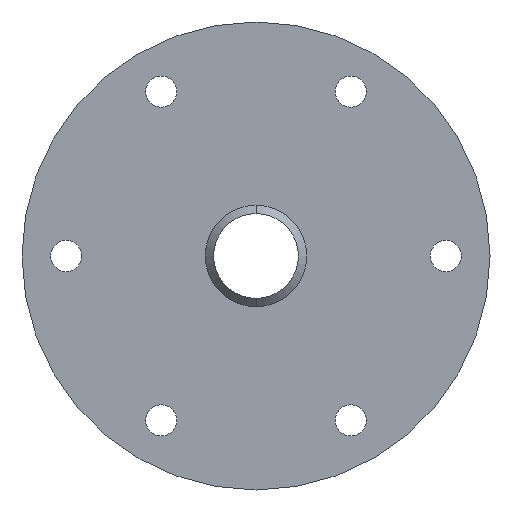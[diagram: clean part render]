
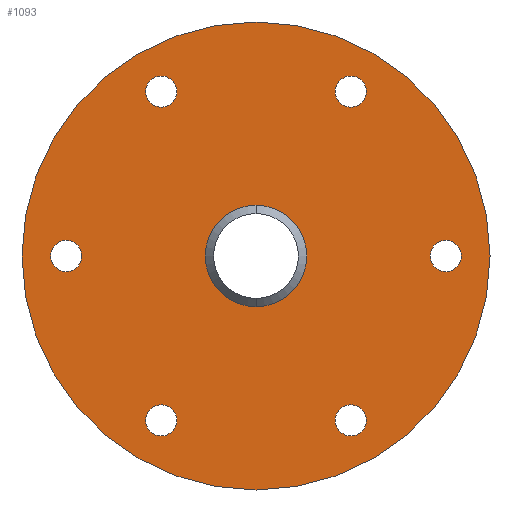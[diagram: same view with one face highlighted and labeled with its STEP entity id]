
A CAD part, left-side view. The second image highlights one B-rep face of the part: STEP entity #1093.
In plain terms, the highlighted planar face has unit normal (-1, 0, 0).
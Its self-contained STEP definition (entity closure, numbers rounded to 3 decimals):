
#644=CARTESIAN_POINT('POINT6162',(-5.,36.5,-3.));
#645=VERTEX_POINT('VERTEX6162',#644);
#654=CARTESIAN_POINT('POINT6164',(-5.,36.5,3.));
#655=VERTEX_POINT('VERTEX6164',#654);
#656=CARTESIAN_POINT('POS9499',(-5.,36.5,
   0.));
#657=DIRECTION('DIR14489',(1.,0.,0.));
#658=DIRECTION('DIR14490',(0.,0.,-1.));
#659=AXIS2_PLACEMENT_3D('AXIS4991',#656,#657,#658);
#660=CIRCLE('ELLIPSE2497',#659,3.);
#661=EDGE_CURVE('EDGE9603',#655,#645,#660,.T.);
#690=EDGE_CURVE('EDGE9607',#645,#655,#660,.T.);
#695=CARTESIAN_POINT('POINT6166',(-5.,20.848,
   30.11));
#696=VERTEX_POINT('VERTEX6166',#695);
#705=CARTESIAN_POINT('POINT6168',(-5.,15.652,
   33.11));
#706=VERTEX_POINT('VERTEX6168',#705);
#707=CARTESIAN_POINT('POS9504',(-5.,18.25,
   31.61));
#708=DIRECTION('DIR14497',(1.,0.,
   0.));
#709=DIRECTION('DIR14498',(0.,0.866,
   -0.5));
#710=AXIS2_PLACEMENT_3D('AXIS4994',#707,#708,#709);
#711=CIRCLE('ELLIPSE2499',#710,3.);
#712=EDGE_CURVE('EDGE9609',#706,#696,#711,.T.);
#741=EDGE_CURVE('EDGE9613',#696,#706,#711,.T.);
#746=CARTESIAN_POINT('POINT6170',(-5.,
   -15.652,33.11));
#747=VERTEX_POINT('VERTEX6170',#746);
#756=CARTESIAN_POINT('POINT6172',(-5.,-20.848,
   30.11));
#757=VERTEX_POINT('VERTEX6172',#756);
#758=CARTESIAN_POINT('POS9509',(-5.,-18.25,
   31.61));
#759=DIRECTION('DIR14505',(1.,0.,
   0.));
#760=DIRECTION('DIR14506',(0.,0.866,
   0.5));
#761=AXIS2_PLACEMENT_3D('AXIS4997',#758,#759,#760);
#762=CIRCLE('ELLIPSE2501',#761,3.);
#763=EDGE_CURVE('EDGE9615',#757,#747,#762,.T.);
#792=EDGE_CURVE('EDGE9619',#747,#757,#762,.T.);
#797=CARTESIAN_POINT('POINT6174',(-5.,-36.5,
   3.));
#798=VERTEX_POINT('VERTEX6174',#797);
#807=CARTESIAN_POINT('POINT6176',(-5.,-36.5,
   -3.));
#808=VERTEX_POINT('VERTEX6176',#807);
#809=CARTESIAN_POINT('POS9514',(-5.,-36.5,
   0.));
#810=DIRECTION('DIR14513',(1.,0.,0.));
#811=DIRECTION('DIR14514',(0.,0.,1.));
#812=AXIS2_PLACEMENT_3D('AXIS5000',#809,#810,#811);
#813=CIRCLE('ELLIPSE2503',#812,3.);
#814=EDGE_CURVE('EDGE9621',#808,#798,#813,.T.);
#843=EDGE_CURVE('EDGE9625',#798,#808,#813,.T.);
#848=CARTESIAN_POINT('POINT6178',(-5.,
   -20.848,-30.11));
#849=VERTEX_POINT('VERTEX6178',#848);
#858=CARTESIAN_POINT('POINT6180',(-5.,-15.652,
   -33.11));
#859=VERTEX_POINT('VERTEX6180',#858);
#860=CARTESIAN_POINT('POS9519',(-5.,-18.25,
   -31.61));
#861=DIRECTION('DIR14521',(1.,0.,
   0.));
#862=DIRECTION('DIR14522',(0.,-0.866
   ,0.5));
#863=AXIS2_PLACEMENT_3D('AXIS5003',#860,#861,#862);
#864=CIRCLE('ELLIPSE2505',#863,3.);
#865=EDGE_CURVE('EDGE9627',#859,#849,#864,.T.);
#894=EDGE_CURVE('EDGE9631',#849,#859,#864,.T.);
#899=CARTESIAN_POINT('POINT6182',(-5.,15.652,
   -33.11));
#900=VERTEX_POINT('VERTEX6182',#899);
#909=CARTESIAN_POINT('POINT6184',(-5.,20.848,
   -30.11));
#910=VERTEX_POINT('VERTEX6184',#909);
#911=CARTESIAN_POINT('POS9524',(-5.,18.25,
   -31.61));
#912=DIRECTION('DIR14529',(1.,0.,
   0.));
#913=DIRECTION('DIR14530',(0.,-0.866,
   -0.5));
#914=AXIS2_PLACEMENT_3D('AXIS5006',#911,#912,#913);
#915=CIRCLE('ELLIPSE2507',#914,3.);
#916=EDGE_CURVE('EDGE9633',#910,#900,#915,.T.);
#945=EDGE_CURVE('EDGE9637',#900,#910,#915,.T.);
#950=CARTESIAN_POINT('POINT6186',(-5.,0.,
   9.75));
#951=VERTEX_POINT('VERTEX6186',#950);
#958=CARTESIAN_POINT('POINT6187',(-5.,0.,
   -9.75));
#959=VERTEX_POINT('VERTEX6187',#958);
#960=CARTESIAN_POINT('POS9529',(-5.,0.,0.));
#961=DIRECTION('DIR14537',(1.,0.,0.));
#962=DIRECTION('DIR14538',(0.,0.,1.));
#963=AXIS2_PLACEMENT_3D('AXIS5009',#960,#961,#962);
#964=CIRCLE('ELLIPSE2509',#963,9.75);
#965=EDGE_CURVE('EDGE9639',#959,#951,#964,.T.);
#985=EDGE_CURVE('EDGE9641',#951,#959,#964,.T.);
#1045=ORIENTED_EDGE('COEDGE19271',*,*,#985,.T.);
#1046=ORIENTED_EDGE('COEDGE19272',*,*,#965,.T.);
#1047=EDGE_LOOP('NONE',(#1045,#1046));
#1048=FACE_BOUND('LOOP1',#1047,.T.);
#1049=ORIENTED_EDGE('COEDGE19273',*,*,#945,.T.);
#1050=ORIENTED_EDGE('COEDGE19274',*,*,#916,.T.);
#1051=EDGE_LOOP('NONE',(#1049,#1050));
#1052=FACE_BOUND('LOOP1',#1051,.T.);
#1053=ORIENTED_EDGE('COEDGE19275',*,*,#894,.T.);
#1054=ORIENTED_EDGE('COEDGE19276',*,*,#865,.T.);
#1055=EDGE_LOOP('NONE',(#1053,#1054));
#1056=FACE_BOUND('LOOP1',#1055,.T.);
#1057=ORIENTED_EDGE('COEDGE19277',*,*,#843,.T.);
#1058=ORIENTED_EDGE('COEDGE19278',*,*,#814,.T.);
#1059=EDGE_LOOP('NONE',(#1057,#1058));
#1060=FACE_BOUND('LOOP1',#1059,.T.);
#1061=ORIENTED_EDGE('COEDGE19279',*,*,#792,.T.);
#1062=ORIENTED_EDGE('COEDGE19280',*,*,#763,.T.);
#1063=EDGE_LOOP('NONE',(#1061,#1062));
#1064=FACE_BOUND('LOOP1',#1063,.T.);
#1065=ORIENTED_EDGE('COEDGE19281',*,*,#741,.T.);
#1066=ORIENTED_EDGE('COEDGE19282',*,*,#712,.T.);
#1067=EDGE_LOOP('NONE',(#1065,#1066));
#1068=FACE_BOUND('LOOP1',#1067,.T.);
#1069=ORIENTED_EDGE('COEDGE19283',*,*,#690,.T.);
#1070=ORIENTED_EDGE('COEDGE19284',*,*,#661,.T.);
#1071=EDGE_LOOP('NONE',(#1069,#1070));
#1072=FACE_BOUND('LOOP1',#1071,.T.);
#1073=CARTESIAN_POINT('POINT6190',(-5.,0.,-45.));
#1074=VERTEX_POINT('VERTEX6190',#1073);
#1075=CARTESIAN_POINT('POINT6191',(-5.,0.,
   45.));
#1076=VERTEX_POINT('VERTEX6191',#1075);
#1077=CARTESIAN_POINT('POS9534',(-5.,0.,0.));
#1078=DIRECTION('DIR14546',(-1.,0.,0.));
#1079=DIRECTION('DIR14547',(0.,0.,-1.));
#1080=AXIS2_PLACEMENT_3D('AXIS5013',#1077,#1078,#1079);
#1081=CIRCLE('ELLIPSE2511',#1080,45.);
#1082=EDGE_CURVE('EDGE9644',#1074,#1076,#1081,.T.);
#1083=ORIENTED_EDGE('COEDGE19285',*,*,#1082,.T.);
#1084=EDGE_CURVE('EDGE9645',#1076,#1074,#1081,.T.);
#1085=ORIENTED_EDGE('COEDGE19286',*,*,#1084,.T.);
#1086=EDGE_LOOP('NONE',(#1083,#1085));
#1087=FACE_BOUND('LOOP1',#1086,.T.);
#1088=CARTESIAN_POINT('POS9535',(-5.,0.,0.));
#1089=DIRECTION('DIR14548',(-1.,0.,0.));
#1090=DIRECTION('DIR14549',(0.,1.,0.));
#1091=AXIS2_PLACEMENT_3D('AXIS5014',#1088,#1089,#1090);
#1092=PLANE('PLANE1388',#1091);
#1093=ADVANCED_FACE('FACE4048',(#1048,#1052,#1056,#1060,#1064,#1068,
   #1072,#1087),#1092,.T.);
